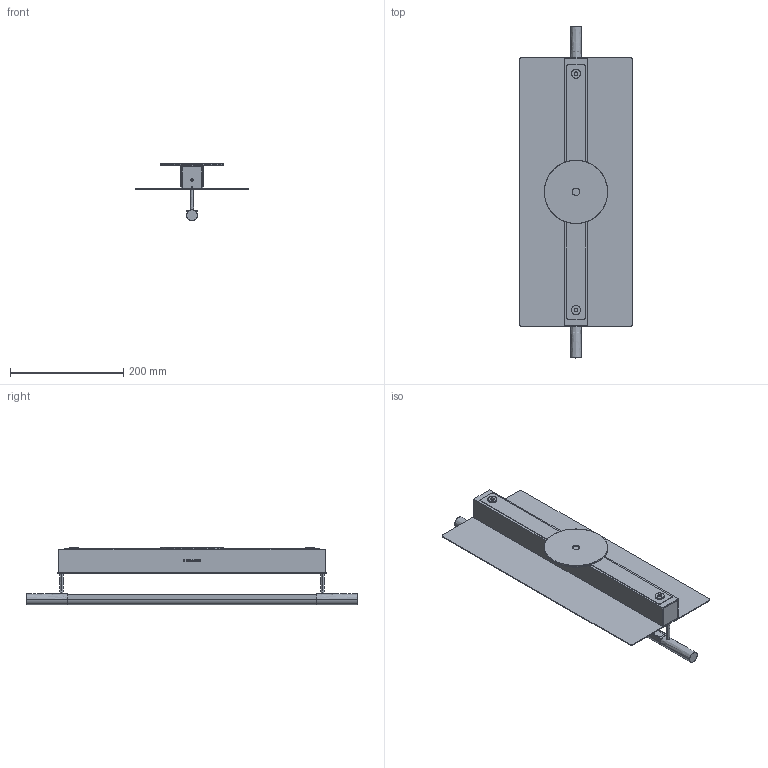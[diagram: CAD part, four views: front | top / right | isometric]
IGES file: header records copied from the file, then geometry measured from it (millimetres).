
Start section: SolidWorks IGES file using analytic representation for surfaces
Global section: file name: C:\SANTACOLE_PDM\Proyectos Catálogo\PROD-P21-004 -- LAMINA VERTICAL\6_Técnico comercial\3D\IGES\Lamina Plana aplique UL.IGS; native system: SolidWorks 2021; preprocessor: SolidWorks 2021; author: clara.galimany; date: 221219.104715; units: millimetre
Bounding box: 198.4 x 587 x 101.09 mm (x, y, z)
Surface area: 406594 mm2 (no closed solid volume)
Topology: 0 solids, 0 shells, 584 faces, 6049 edges, 6049 vertices
Faces by surface type: bspline 452, revolution 132
